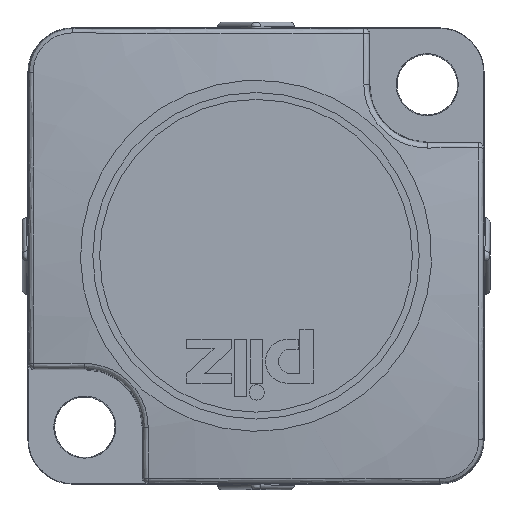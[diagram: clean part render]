
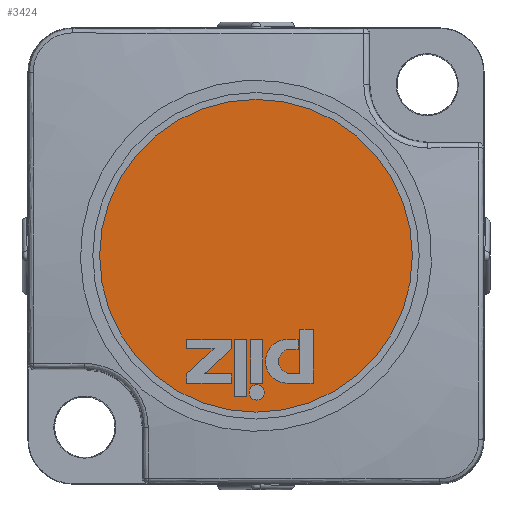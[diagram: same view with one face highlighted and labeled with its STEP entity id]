
A CAD part, top view. The second image highlights one B-rep face of the part: STEP entity #3424.
In plain terms, the highlighted planar face has unit normal (0, 0, 1).
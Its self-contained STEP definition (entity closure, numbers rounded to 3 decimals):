
#101=CARTESIAN_POINT('',(33.7,20.,0.0));
#102=VERTEX_POINT('',#101);
#103=CARTESIAN_POINT('',(20.,20.0,0.0));
#104=DIRECTION('',(0.0,0.0,1.0));
#105=DIRECTION('',(-1.0,0.0,0.0));
#106=AXIS2_PLACEMENT_3D('',#103,#104,#105);
#107=CIRCLE('',#106,13.7);
#108=EDGE_CURVE('',#102,#102,#107,.T.);
#178=CARTESIAN_POINT('',(20.723,8.026,0.0));
#179=VERTEX_POINT('',#178);
#180=CARTESIAN_POINT('',(20.056,8.026,0.0));
#181=DIRECTION('',(0.0,0.0,-1.0));
#182=DIRECTION('',(-1.0,0.0,0.0));
#183=AXIS2_PLACEMENT_3D('',#180,#181,#182);
#184=CIRCLE('',#183,0.667);
#185=EDGE_CURVE('',#179,#179,#184,.T.);
#238=CARTESIAN_POINT('',(18.113,7.649,0.0));
#239=VERTEX_POINT('',#238);
#240=CARTESIAN_POINT('',(18.113,12.649,0.0));
#241=VERTEX_POINT('',#240);
#242=CARTESIAN_POINT('',(18.113,7.649,0.0));
#243=DIRECTION('',(0.0,1.0,0.0));
#244=VECTOR('',#243,5.);
#245=LINE('',#242,#244);
#246=EDGE_CURVE('',#239,#241,#245,.T.);
#269=CARTESIAN_POINT('',(19.209,12.649,0.0));
#270=VERTEX_POINT('',#269);
#271=CARTESIAN_POINT('',(18.113,12.649,0.0));
#272=DIRECTION('',(1.0,0.0,0.0));
#273=VECTOR('',#272,1.096);
#274=LINE('',#271,#273);
#275=EDGE_CURVE('',#241,#270,#274,.T.);
#293=CARTESIAN_POINT('',(19.209,7.649,0.0));
#294=VERTEX_POINT('',#293);
#295=CARTESIAN_POINT('',(19.209,7.649,0.0));
#296=DIRECTION('',(-1.0,0.0,0.0));
#297=VECTOR('',#296,1.096);
#298=LINE('',#295,#297);
#299=EDGE_CURVE('',#294,#239,#298,.T.);
#317=CARTESIAN_POINT('',(19.209,12.649,0.0));
#318=DIRECTION('',(0.0,-1.0,0.0));
#319=VECTOR('',#318,5.);
#320=LINE('',#317,#319);
#321=EDGE_CURVE('',#270,#294,#320,.T.);
#334=CARTESIAN_POINT('',(17.83,12.649,0.0));
#335=VERTEX_POINT('',#334);
#336=CARTESIAN_POINT('',(17.83,11.85,0.0));
#337=VERTEX_POINT('',#336);
#338=CARTESIAN_POINT('',(17.83,12.649,0.0));
#339=DIRECTION('',(0.0,-1.0,0.0));
#340=VECTOR('',#339,0.799);
#341=LINE('',#338,#340);
#342=EDGE_CURVE('',#335,#337,#341,.T.);
#374=CARTESIAN_POINT('',(15.449,9.655,0.0));
#375=VERTEX_POINT('',#374);
#376=CARTESIAN_POINT('',(17.83,11.85,0.));
#377=DIRECTION('',(-0.735,-0.678,0.0));
#378=VECTOR('',#377,3.238);
#379=LINE('',#376,#378);
#380=EDGE_CURVE('',#337,#375,#379,.T.);
#405=CARTESIAN_POINT('',(17.83,9.655,0.0));
#406=VERTEX_POINT('',#405);
#407=CARTESIAN_POINT('',(15.449,9.655,0.0));
#408=DIRECTION('',(1.0,0.0,0.0));
#409=VECTOR('',#408,2.38);
#410=LINE('',#407,#409);
#411=EDGE_CURVE('',#375,#406,#410,.T.);
#436=CARTESIAN_POINT('',(17.83,8.82,0.0));
#437=VERTEX_POINT('',#436);
#438=CARTESIAN_POINT('',(17.83,9.655,0.0));
#439=DIRECTION('',(0.0,-1.0,0.0));
#440=VECTOR('',#439,0.835);
#441=LINE('',#438,#440);
#442=EDGE_CURVE('',#406,#437,#441,.T.);
#467=CARTESIAN_POINT('',(13.945,8.82,0.0));
#468=VERTEX_POINT('',#467);
#469=CARTESIAN_POINT('',(17.83,8.82,0.0));
#470=DIRECTION('',(-1.0,0.0,0.0));
#471=VECTOR('',#470,3.885);
#472=LINE('',#469,#471);
#473=EDGE_CURVE('',#437,#468,#472,.T.);
#498=CARTESIAN_POINT('',(13.945,12.649,0.0));
#499=VERTEX_POINT('',#498);
#500=CARTESIAN_POINT('',(13.945,12.649,0.0));
#501=DIRECTION('',(1.0,0.0,0.0));
#502=VECTOR('',#501,3.885);
#503=LINE('',#500,#502);
#504=EDGE_CURVE('',#499,#335,#503,.T.);
#529=CARTESIAN_POINT('',(13.945,11.849,0.0));
#530=VERTEX_POINT('',#529);
#531=CARTESIAN_POINT('',(13.945,11.849,0.0));
#532=DIRECTION('',(0.0,1.0,0.0));
#533=VECTOR('',#532,0.8);
#534=LINE('',#531,#533);
#535=EDGE_CURVE('',#530,#499,#534,.T.);
#560=CARTESIAN_POINT('',(16.321,11.849,0.0));
#561=VERTEX_POINT('',#560);
#562=CARTESIAN_POINT('',(16.321,11.849,0.0));
#563=DIRECTION('',(-1.0,0.0,0.0));
#564=VECTOR('',#563,2.376);
#565=LINE('',#562,#564);
#566=EDGE_CURVE('',#561,#530,#565,.T.);
#591=CARTESIAN_POINT('',(13.945,9.662,0.0));
#592=VERTEX_POINT('',#591);
#593=CARTESIAN_POINT('',(13.945,9.662,0.));
#594=DIRECTION('',(0.736,0.677,0.0));
#595=VECTOR('',#594,3.229);
#596=LINE('',#593,#595);
#597=EDGE_CURVE('',#592,#561,#596,.T.);
#622=CARTESIAN_POINT('',(13.945,8.82,0.0));
#623=DIRECTION('',(0.0,1.0,0.0));
#624=VECTOR('',#623,0.842);
#625=LINE('',#622,#624);
#626=EDGE_CURVE('',#468,#592,#625,.T.);
#702=CARTESIAN_POINT('',(20.593,8.82,0.0));
#703=VERTEX_POINT('',#702);
#704=CARTESIAN_POINT('',(19.527,8.82,0.0));
#705=VERTEX_POINT('',#704);
#706=CARTESIAN_POINT('',(20.593,8.82,0.0));
#707=DIRECTION('',(-1.0,0.0,0.0));
#708=VECTOR('',#707,1.066);
#709=LINE('',#706,#708);
#710=EDGE_CURVE('',#703,#705,#709,.T.);
#733=CARTESIAN_POINT('',(19.527,12.649,0.0));
#734=VERTEX_POINT('',#733);
#735=CARTESIAN_POINT('',(19.527,8.82,0.0));
#736=DIRECTION('',(0.0,1.0,0.0));
#737=VECTOR('',#736,3.829);
#738=LINE('',#735,#737);
#739=EDGE_CURVE('',#705,#734,#738,.T.);
#757=CARTESIAN_POINT('',(20.593,12.649,0.0));
#758=VERTEX_POINT('',#757);
#759=CARTESIAN_POINT('',(20.593,12.649,0.0));
#760=DIRECTION('',(0.0,-1.0,0.0));
#761=VECTOR('',#760,3.829);
#762=LINE('',#759,#761);
#763=EDGE_CURVE('',#758,#703,#762,.T.);
#781=CARTESIAN_POINT('',(19.527,12.649,0.0));
#782=DIRECTION('',(1.0,0.0,0.0));
#783=VECTOR('',#782,1.066);
#784=LINE('',#781,#783);
#785=EDGE_CURVE('',#734,#758,#784,.T.);
#798=CARTESIAN_POINT('',(23.69,11.818,0.0));
#799=VERTEX_POINT('',#798);
#800=CARTESIAN_POINT('',(23.035,11.818,0.0));
#801=VERTEX_POINT('',#800);
#802=CARTESIAN_POINT('',(23.69,11.818,0.0));
#803=DIRECTION('',(-1.0,0.0,0.0));
#804=VECTOR('',#803,0.655);
#805=LINE('',#802,#804);
#806=EDGE_CURVE('',#799,#801,#805,.T.);
#838=CARTESIAN_POINT('',(23.035,9.69,0.0));
#839=VERTEX_POINT('',#838);
#840=CARTESIAN_POINT('',(23.035,10.754,0.0));
#841=DIRECTION('',(0.0,0.0,1.0));
#842=DIRECTION('',(0.0,-1.0,0.0));
#843=AXIS2_PLACEMENT_3D('',#840,#841,#842);
#844=CIRCLE('',#843,1.064);
#845=EDGE_CURVE('',#801,#839,#844,.T.);
#871=CARTESIAN_POINT('',(23.85,9.69,0.0));
#872=VERTEX_POINT('',#871);
#873=CARTESIAN_POINT('',(23.035,9.69,0.0));
#874=DIRECTION('',(1.0,0.0,0.0));
#875=VECTOR('',#874,0.816);
#876=LINE('',#873,#875);
#877=EDGE_CURVE('',#839,#872,#876,.T.);
#902=CARTESIAN_POINT('',(23.85,13.546,0.0));
#903=VERTEX_POINT('',#902);
#904=CARTESIAN_POINT('',(23.85,9.69,0.0));
#905=DIRECTION('',(0.0,1.0,0.0));
#906=VECTOR('',#905,3.856);
#907=LINE('',#904,#906);
#908=EDGE_CURVE('',#872,#903,#907,.T.);
#933=CARTESIAN_POINT('',(25.001,13.546,0.0));
#934=VERTEX_POINT('',#933);
#935=CARTESIAN_POINT('',(23.85,13.546,0.0));
#936=DIRECTION('',(1.0,0.0,0.0));
#937=VECTOR('',#936,1.151);
#938=LINE('',#935,#937);
#939=EDGE_CURVE('',#903,#934,#938,.T.);
#964=CARTESIAN_POINT('',(23.69,12.669,0.0));
#965=VERTEX_POINT('',#964);
#966=CARTESIAN_POINT('',(23.69,12.669,0.0));
#967=DIRECTION('',(0.0,-1.0,0.0));
#968=VECTOR('',#967,0.851);
#969=LINE('',#966,#968);
#970=EDGE_CURVE('',#965,#799,#969,.T.);
#995=CARTESIAN_POINT('',(22.737,12.669,0.0));
#996=VERTEX_POINT('',#995);
#997=CARTESIAN_POINT('',(22.737,12.669,0.0));
#998=DIRECTION('',(1.0,0.0,0.0));
#999=VECTOR('',#998,0.953);
#1000=LINE('',#997,#999);
#1001=EDGE_CURVE('',#996,#965,#1000,.T.);
#1026=CARTESIAN_POINT('',(22.737,8.839,0.0));
#1027=VERTEX_POINT('',#1026);
#1028=CARTESIAN_POINT('',(22.737,10.754,0.0));
#1029=DIRECTION('',(0.0,0.0,-1.0));
#1030=DIRECTION('',(0.0,1.0,0.0));
#1031=AXIS2_PLACEMENT_3D('',#1028,#1029,#1030);
#1032=CIRCLE('',#1031,1.915);
#1033=EDGE_CURVE('',#1027,#996,#1032,.T.);
#1059=CARTESIAN_POINT('',(25.001,8.839,0.0));
#1060=VERTEX_POINT('',#1059);
#1061=CARTESIAN_POINT('',(25.001,8.839,0.0));
#1062=DIRECTION('',(-1.0,0.0,0.0));
#1063=VECTOR('',#1062,2.264);
#1064=LINE('',#1061,#1063);
#1065=EDGE_CURVE('',#1060,#1027,#1064,.T.);
#1090=CARTESIAN_POINT('',(25.001,13.546,0.0));
#1091=DIRECTION('',(0.0,-1.0,0.0));
#1092=VECTOR('',#1091,4.707);
#1093=LINE('',#1090,#1092);
#1094=EDGE_CURVE('',#934,#1060,#1093,.T.);
#3377=CARTESIAN_POINT('',(20.,20.,0.0));
#3378=DIRECTION('',(0.0,0.0,1.0));
#3379=DIRECTION('',(1.0,0.0,0.0));
#3380=AXIS2_PLACEMENT_3D('',#3377,#3378,#3379);
#3381=PLANE('',#3380);
#3382=ORIENTED_EDGE('',*,*,#108,.T.);
#3383=EDGE_LOOP('',(#3382));
#3384=FACE_OUTER_BOUND('',#3383,.T.);
#3385=ORIENTED_EDGE('',*,*,#185,.T.);
#3386=EDGE_LOOP('',(#3385));
#3387=FACE_BOUND('',#3386,.T.);
#3388=ORIENTED_EDGE('',*,*,#246,.T.);
#3389=ORIENTED_EDGE('',*,*,#275,.T.);
#3390=ORIENTED_EDGE('',*,*,#321,.T.);
#3391=ORIENTED_EDGE('',*,*,#299,.T.);
#3392=EDGE_LOOP('',(#3388,#3389,#3390,#3391));
#3393=FACE_BOUND('',#3392,.T.);
#3394=ORIENTED_EDGE('',*,*,#342,.T.);
#3395=ORIENTED_EDGE('',*,*,#380,.T.);
#3396=ORIENTED_EDGE('',*,*,#411,.T.);
#3397=ORIENTED_EDGE('',*,*,#442,.T.);
#3398=ORIENTED_EDGE('',*,*,#473,.T.);
#3399=ORIENTED_EDGE('',*,*,#626,.T.);
#3400=ORIENTED_EDGE('',*,*,#597,.T.);
#3401=ORIENTED_EDGE('',*,*,#566,.T.);
#3402=ORIENTED_EDGE('',*,*,#535,.T.);
#3403=ORIENTED_EDGE('',*,*,#504,.T.);
#3404=EDGE_LOOP('',(#3394,#3395,#3396,#3397,#3398,#3399,#3400,#3401,#3402,#3403));
#3405=FACE_BOUND('',#3404,.T.);
#3406=ORIENTED_EDGE('',*,*,#710,.T.);
#3407=ORIENTED_EDGE('',*,*,#739,.T.);
#3408=ORIENTED_EDGE('',*,*,#785,.T.);
#3409=ORIENTED_EDGE('',*,*,#763,.T.);
#3410=EDGE_LOOP('',(#3406,#3407,#3408,#3409));
#3411=FACE_BOUND('',#3410,.T.);
#3412=ORIENTED_EDGE('',*,*,#806,.T.);
#3413=ORIENTED_EDGE('',*,*,#845,.T.);
#3414=ORIENTED_EDGE('',*,*,#877,.T.);
#3415=ORIENTED_EDGE('',*,*,#908,.T.);
#3416=ORIENTED_EDGE('',*,*,#939,.T.);
#3417=ORIENTED_EDGE('',*,*,#1094,.T.);
#3418=ORIENTED_EDGE('',*,*,#1065,.T.);
#3419=ORIENTED_EDGE('',*,*,#1033,.T.);
#3420=ORIENTED_EDGE('',*,*,#1001,.T.);
#3421=ORIENTED_EDGE('',*,*,#970,.T.);
#3422=EDGE_LOOP('',(#3412,#3413,#3414,#3415,#3416,#3417,#3418,#3419,#3420,#3421));
#3423=FACE_BOUND('',#3422,.T.);
#3424=ADVANCED_FACE('',(#3384,#3387,#3393,#3405,#3411,#3423),#3381,.T.);
